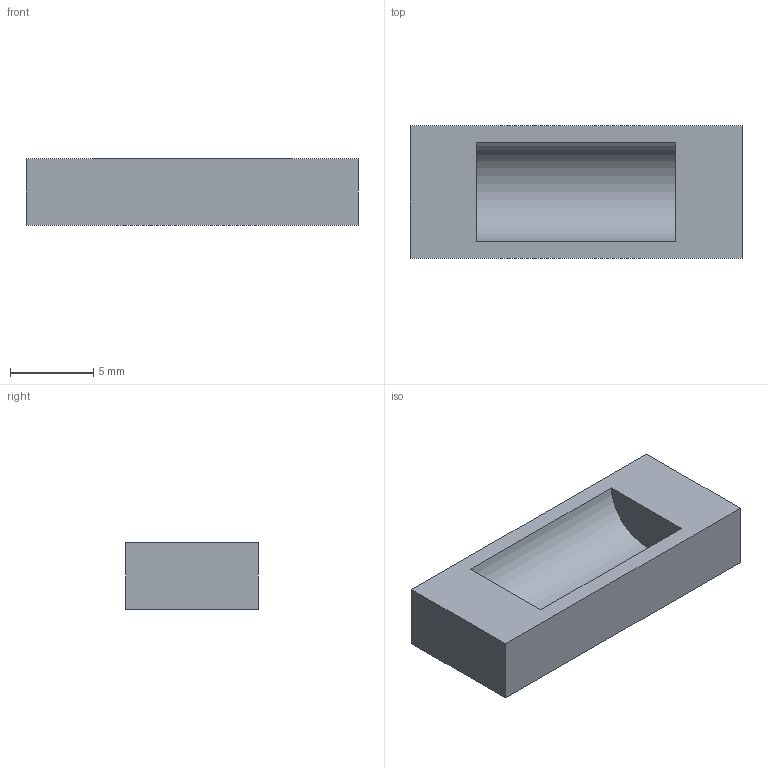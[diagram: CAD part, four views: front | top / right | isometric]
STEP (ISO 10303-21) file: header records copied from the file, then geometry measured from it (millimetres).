
FILE_DESCRIPTION(('FreeCAD Model'),'2;1');
FILE_NAME('Open CASCADE Shape Model','2026-11-20T08:25:39',('FreeCAD'),( 'FreeCAD'),'Open CASCADE STEP processor 7.8','FreeCAD','Unknown');
FILE_SCHEMA(('AUTOMOTIVE_DESIGN { 1 0 10303 214 1 1 1 1 }'));
Length unit declared in the file: millimetre
Products named in the file (1): Open CASCADE STEP translator 7.8 86
Bounding box: 20 x 8 x 4 mm (x, y, z)
Volume: 481.1 mm3; surface area: 608.1 mm2
Topology: 1 solids, 1 shells, 9 faces, 18 edges, 12 vertices
Faces by surface type: plane 8, cylinder 1
Entity records: 244 total; most frequent: CARTESIAN_POINT 40, DIRECTION 40, ORIENTED_EDGE 36, EDGE_CURVE 18, LINE 16, VECTOR 16, AXIS2_PLACEMENT_3D 12, VERTEX_POINT 12
